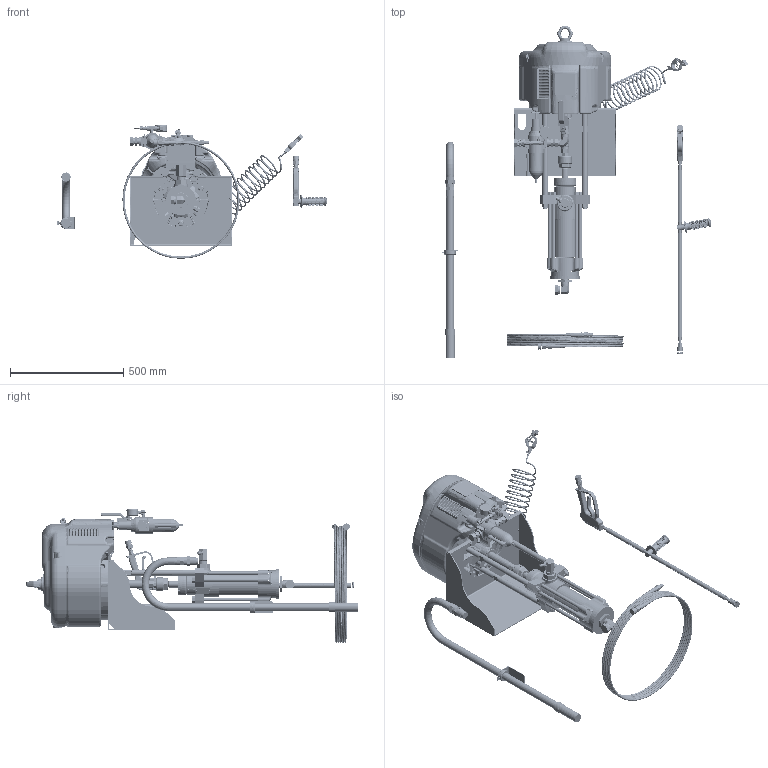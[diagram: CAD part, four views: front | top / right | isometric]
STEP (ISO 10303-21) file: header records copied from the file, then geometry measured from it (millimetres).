
FILE_DESCRIPTION((''),'2;1');
FILE_NAME('247554-EN-S_PRT','2019-12-31T16:52:09',('qusrh3'),(''),'CREO PARAMETRIC BY PTC INC, 2019030','CREO PARAMETRIC BY PTC INC, 2019030','');
FILE_SCHEMA(('CONFIG_CONTROL_DESIGN'));
Products named in the file (1): 247554-EN-S_PRT
Bounding box: 1197.26 x 1466.88 x 589.7 mm (x, y, z)
Surface area: 5179279.3 mm2 (no closed solid volume)
Topology: 0 solids, 495 shells, 7966 faces, 27883 edges, 19426 vertices
Faces by surface type: plane 2110, bspline 2000, cylinder 1887, torus 1075, cone 749, sphere 133, extrusion 12
Entity records: 426639 total; most frequent: CARTESIAN_POINT 219677, ORIENTED_EDGE 43750, DIRECTION 36004, EDGE_CURVE 27854, VERTEX_POINT 19426, AXIS2_PLACEMENT_3D 14153, B_SPLINE_CURVE_WITH_KNOTS 11981, CIRCLE 8199
